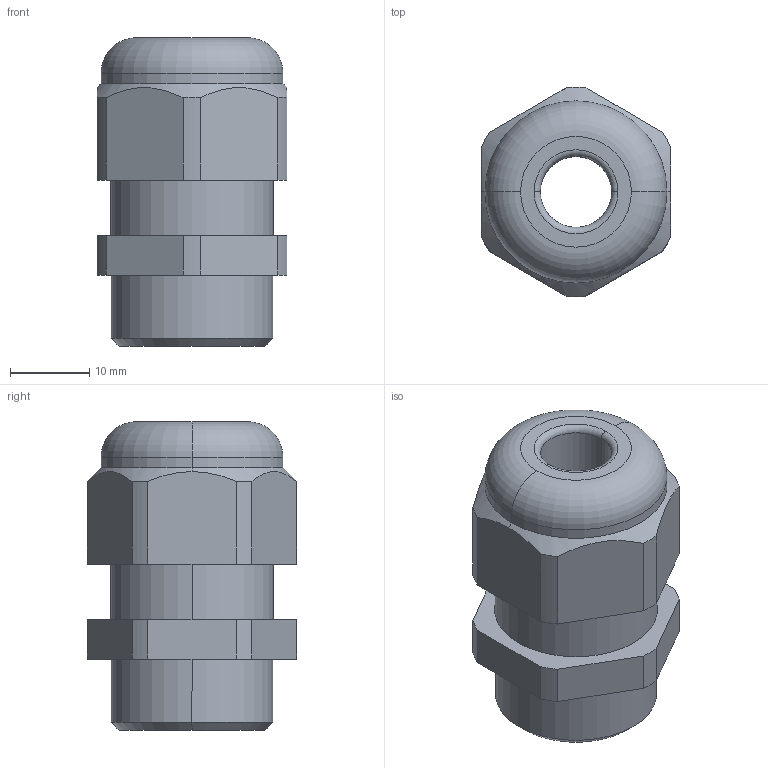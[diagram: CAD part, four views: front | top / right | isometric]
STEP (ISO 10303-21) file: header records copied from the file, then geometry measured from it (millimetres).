
FILE_DESCRIPTION (( 'STEP AP203' ), '1' );
FILE_NAME ('50.013 PA-R.STEP', '2006-11-08T07:19:27', ( ' ' ), ( '' ), 'SwSTEP 2.0', 'SolidWorks 2005278', '' );
FILE_SCHEMA (( 'CONFIG_CONTROL_DESIGN' ));
Length unit declared in the file: millimetre
Products named in the file (1): 50.013 PA-R
Bounding box: 24 x 26.49 x 39 mm (x, y, z)
Volume: 13326.1 mm3; surface area: 4869 mm2
Topology: 1 solids, 1 shells, 84 faces, 218 edges, 142 vertices
Faces by surface type: plane 54, cylinder 20, torus 6, cone 4
Entity records: 2705 total; most frequent: CARTESIAN_POINT 529, ORIENTED_EDGE 436, DIRECTION 434, EDGE_CURVE 218, LINE 156, VECTOR 156, VERTEX_POINT 142, AXIS2_PLACEMENT_3D 139
